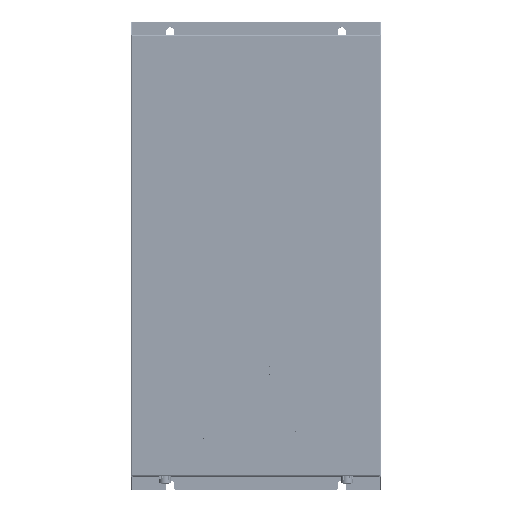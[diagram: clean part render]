
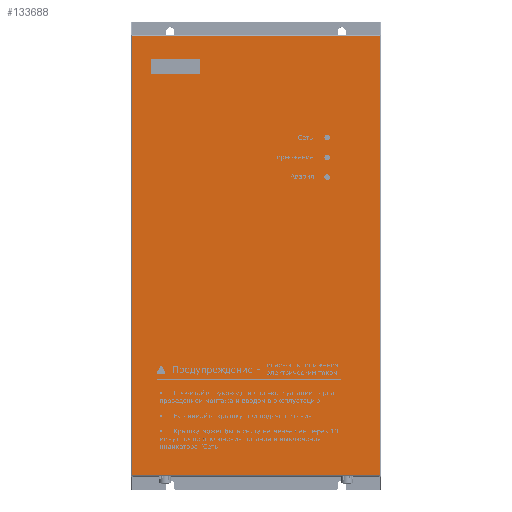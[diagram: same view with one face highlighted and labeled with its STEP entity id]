
A CAD part, top view. The second image highlights one B-rep face of the part: STEP entity #133688.
In plain terms, the highlighted planar face has unit normal (0, 0, 1).
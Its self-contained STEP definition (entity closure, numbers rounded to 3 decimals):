
#8422=FACE_BOUND('',#21690,.T.);
#8423=FACE_BOUND('',#21691,.T.);
#8424=FACE_BOUND('',#21692,.T.);
#10654=CIRCLE('',#144231,2.1);
#10655=CIRCLE('',#144232,2.1);
#10656=CIRCLE('',#144233,2.1);
#13751=FACE_OUTER_BOUND('',#21689,.T.);
#21689=EDGE_LOOP('',(#100285,#100286,#100287,#100288));
#21690=EDGE_LOOP('',(#100289));
#21691=EDGE_LOOP('',(#100290));
#21692=EDGE_LOOP('',(#100291));
#31380=LINE('',#198523,#45007);
#31382=LINE('',#198529,#45009);
#31435=LINE('',#198651,#45062);
#31437=LINE('',#198657,#45064);
#45007=VECTOR('',#161257,332.6);
#45009=VECTOR('',#161265,187.6);
#45062=VECTOR('',#161378,332.6);
#45064=VECTOR('',#161386,187.6);
#58548=VERTEX_POINT('',#198422);
#58551=VERTEX_POINT('',#198429);
#58553=VERTEX_POINT('',#198434);
#58556=VERTEX_POINT('',#198441);
#58629=VERTEX_POINT('',#198702);
#58630=VERTEX_POINT('',#198704);
#58631=VERTEX_POINT('',#198706);
#73946=EDGE_CURVE('',#58548,#58553,#31380,.T.);
#73949=EDGE_CURVE('',#58553,#58551,#31382,.T.);
#74011=EDGE_CURVE('',#58551,#58556,#31435,.T.);
#74014=EDGE_CURVE('',#58556,#58548,#31437,.T.);
#74036=EDGE_CURVE('',#58629,#58629,#10654,.T.);
#74037=EDGE_CURVE('',#58630,#58630,#10655,.T.);
#74038=EDGE_CURVE('',#58631,#58631,#10656,.T.);
#100285=ORIENTED_EDGE('',*,*,#73946,.F.);
#100286=ORIENTED_EDGE('',*,*,#74014,.F.);
#100287=ORIENTED_EDGE('',*,*,#74011,.F.);
#100288=ORIENTED_EDGE('',*,*,#73949,.F.);
#100289=ORIENTED_EDGE('',*,*,#74036,.F.);
#100290=ORIENTED_EDGE('',*,*,#74037,.F.);
#100291=ORIENTED_EDGE('',*,*,#74038,.F.);
#128137=PLANE('',#144230);
#133688=ADVANCED_FACE('',(#13751,#8422,#8423,#8424),#128137,.T.);
#144230=AXIS2_PLACEMENT_3D('',#198701,#161440,#161441);
#144231=AXIS2_PLACEMENT_3D('',#198703,#161442,#161443);
#144232=AXIS2_PLACEMENT_3D('',#198705,#161444,#161445);
#144233=AXIS2_PLACEMENT_3D('',#198707,#161446,#161447);
#161257=DIRECTION('',(0.,1.,0.));
#161265=DIRECTION('',(1.,0.,0.));
#161378=DIRECTION('',(0.,-1.,0.));
#161386=DIRECTION('',(-1.,0.,0.));
#161440=DIRECTION('center_axis',(0.,0.,1.));
#161441=DIRECTION('ref_axis',(1.,0.,0.));
#161442=DIRECTION('center_axis',(0.,0.,1.));
#161443=DIRECTION('ref_axis',(-1.,0.,0.));
#161444=DIRECTION('center_axis',(0.,0.,1.));
#161445=DIRECTION('ref_axis',(-1.,0.,0.));
#161446=DIRECTION('center_axis',(0.,0.,1.));
#161447=DIRECTION('ref_axis',(-1.,0.,0.));
#198422=CARTESIAN_POINT('',(-93.8,-166.3,1.));
#198429=CARTESIAN_POINT('',(93.8,166.3,1.));
#198434=CARTESIAN_POINT('',(-93.8,166.3,1.));
#198441=CARTESIAN_POINT('',(93.8,-166.3,1.));
#198523=CARTESIAN_POINT('',(-93.8,-166.3,1.));
#198529=CARTESIAN_POINT('',(-93.8,166.3,1.));
#198651=CARTESIAN_POINT('',(93.8,166.3,1.));
#198657=CARTESIAN_POINT('',(93.8,-166.3,1.));
#198701=CARTESIAN_POINT('Origin',(0.,0.,1.));
#198702=CARTESIAN_POINT('',(56.1,59.5,1.));
#198703=CARTESIAN_POINT('Origin',(54.,59.5,1.));
#198704=CARTESIAN_POINT('',(56.1,74.5,1.));
#198705=CARTESIAN_POINT('Origin',(54.,74.5,1.));
#198706=CARTESIAN_POINT('',(56.1,89.5,1.));
#198707=CARTESIAN_POINT('Origin',(54.,89.5,1.));
